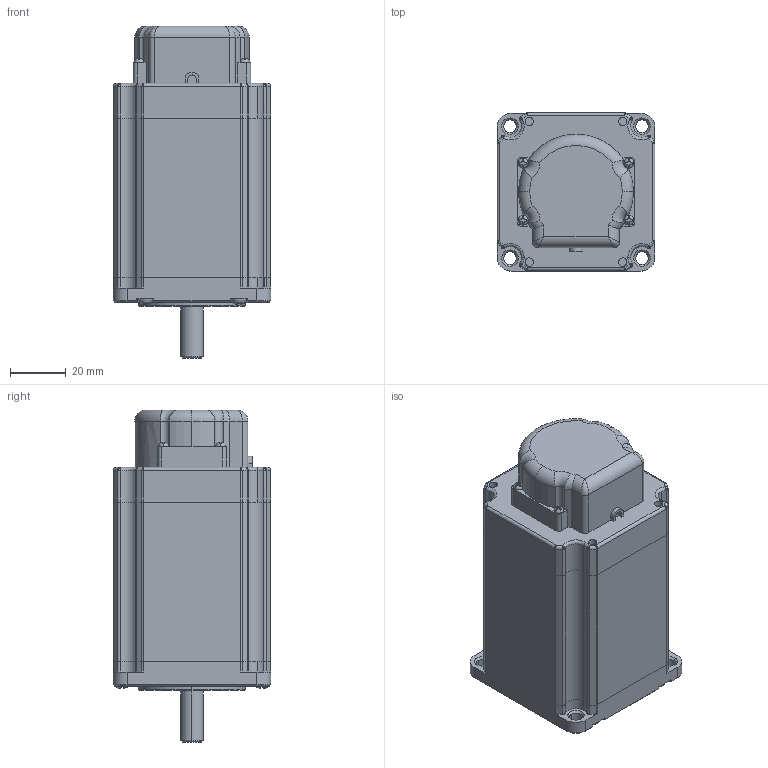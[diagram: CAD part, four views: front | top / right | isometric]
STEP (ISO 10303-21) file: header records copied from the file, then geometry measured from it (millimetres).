
FILE_DESCRIPTION (( 'STEP AP203' ), '1' );
FILE_NAME ('TS4747.STEP', '2010-07-21T18:23:23', ( 'render' ), ( '' ), 'SwSTEP 2.0', 'SolidWorks 2009', '' );
FILE_SCHEMA (( 'CONFIG_CONTROL_DESIGN' ));
Length unit declared in the file: millimetre
Products named in the file (8): TS4747; Assembly-1; 衛偯; 催獉; 後蓋; ねじ.2.3.2; ねじ.1.3; TS4747N3200E500
Assembly tree (13 placements, depth 3):
  TS4747
    Assembly-1
      ねじ.2.3.2  x4
      後蓋
      TS4747N3200E500
      ねじ.1.3  x4
      催獉
      衛偯
Bounding box: 56.4 x 56.4 x 118.6 mm (x, y, z)
Volume: 254676.3 mm3; surface area: 44689.8 mm2
Topology: 12 solids, 12 shells, 507 faces, 1338 edges, 856 vertices
Faces by surface type: cylinder 210, plane 184, torus 41, cone 38, bspline 26, sphere 8
Entity records: 15197 total; most frequent: CARTESIAN_POINT 4358, DIRECTION 2197, ORIENTED_EDGE 2024, EDGE_CURVE 1012, AXIS2_PLACEMENT_3D 881, VERTEX_POINT 640, CIRCLE 503, LINE 435
